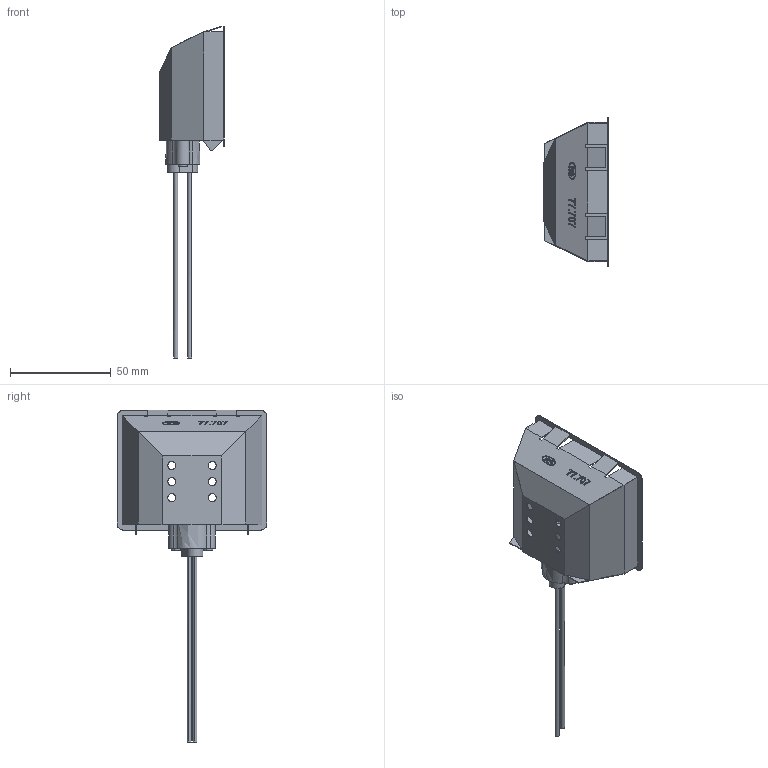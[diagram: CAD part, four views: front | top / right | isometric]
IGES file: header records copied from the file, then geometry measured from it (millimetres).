
Global section: file name: C:\coretechnologie2012\in/00CYK03Y05.igs; native system: CT CoreTechnologie 3D Evolution; preprocessor: 2006; author: assmuth; date: 1130923.095719; units: millimetre
Bounding box: 31.9 x 74.2 x 164.48 mm (x, y, z)
Surface area: 23406.8 mm2 (no closed solid volume)
Topology: 0 solids, 0 shells, 280 faces, 1432 edges, 1432 vertices
Faces by surface type: bspline 280
